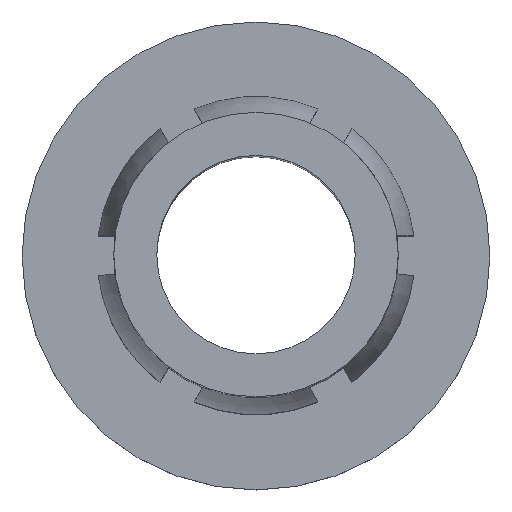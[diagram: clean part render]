
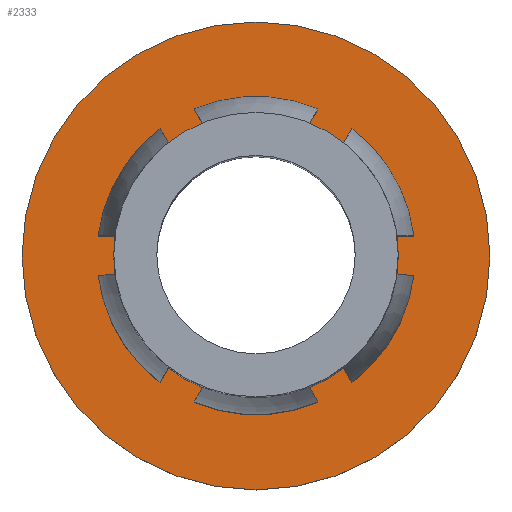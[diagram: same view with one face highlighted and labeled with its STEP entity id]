
A CAD part, top view. The second image highlights one B-rep face of the part: STEP entity #2333.
In plain terms, the highlighted planar face has unit normal (0, 0, 1).
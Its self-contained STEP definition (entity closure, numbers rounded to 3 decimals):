
#127 = CARTESIAN_POINT ( 'NONE',  ( 8.227, 0., -19.786 ) ) ;
#398 = DIRECTION ( 'NONE',  ( -1., 0., 0. ) ) ;
#709 = AXIS2_PLACEMENT_3D ( 'NONE', #127, #1975, #398 ) ;
#720 = ORIENTED_EDGE ( 'NONE', *, *, #1536, .F. ) ;
#765 = DIRECTION ( 'NONE',  ( 0., 0., -1. ) ) ;
#803 = EDGE_CURVE ( 'NONE', #2268, #2268, #1652, .T. ) ;
#827 = DIRECTION ( 'NONE',  ( 0., 0., -1. ) ) ;
#872 = CARTESIAN_POINT ( 'NONE',  ( 5.331, 0., -19.786 ) ) ;
#877 = EDGE_LOOP ( 'NONE', ( #2476 ) ) ;
#880 = EDGE_LOOP ( 'NONE', ( #720 ) ) ;
#1085 = PLANE ( 'NONE',  #1662 ) ;
#1407 = CARTESIAN_POINT ( 'NONE',  ( 3.464, 0., -19.786 ) ) ;
#1536 = EDGE_CURVE ( 'NONE', #1569, #1569, #1818, .T. ) ;
#1569 = VERTEX_POINT ( 'NONE', #1407 ) ;
#1652 = CIRCLE ( 'NONE', #1823, 2.896 ) ;
#1662 = AXIS2_PLACEMENT_3D ( 'NONE', #2421, #827, #2694 ) ;
#1730 = FACE_OUTER_BOUND ( 'NONE', #880, .T. ) ;
#1818 = CIRCLE ( 'NONE', #709, 4.763 ) ;
#1823 = AXIS2_PLACEMENT_3D ( 'NONE', #2355, #765, #2629 ) ;
#1975 = DIRECTION ( 'NONE',  ( 0., 0., -1. ) ) ;
#2268 = VERTEX_POINT ( 'NONE', #872 ) ;
#2333 = ADVANCED_FACE ( 'NONE', ( #3174, #1730 ), #1085, .F. ) ;
#2355 = CARTESIAN_POINT ( 'NONE',  ( 8.227, 0., -19.786 ) ) ;
#2421 = CARTESIAN_POINT ( 'NONE',  ( 12.989, 0., -19.786 ) ) ;
#2476 = ORIENTED_EDGE ( 'NONE', *, *, #803, .T. ) ;
#2629 = DIRECTION ( 'NONE',  ( -1., 0., 0. ) ) ;
#2694 = DIRECTION ( 'NONE',  ( -1., 0., 0. ) ) ;
#3174 = FACE_BOUND ( 'NONE', #877, .T. ) ;
